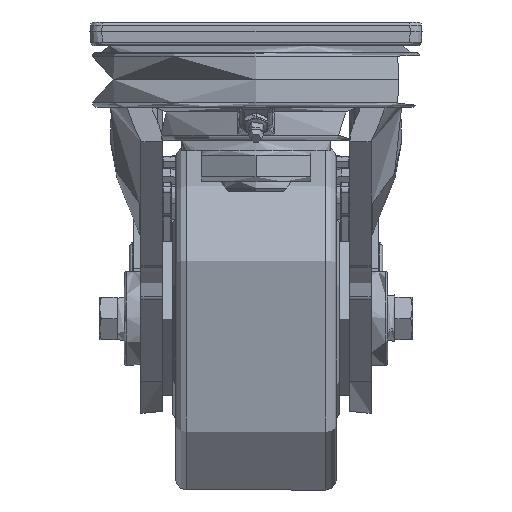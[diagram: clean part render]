
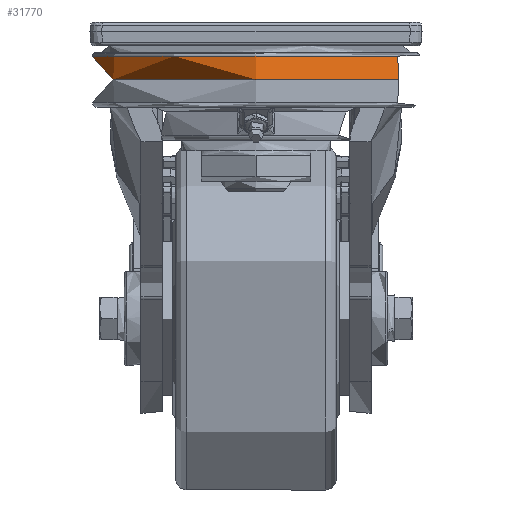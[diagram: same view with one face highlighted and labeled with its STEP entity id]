
A CAD part, left-side view. The second image highlights one B-rep face of the part: STEP entity #31770.
In plain terms, the highlighted conical face has half-angle 3 degrees and reference radius 69.242 mm.
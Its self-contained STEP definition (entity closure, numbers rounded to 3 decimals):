
#81=CONICAL_SURFACE('',#34088,69.242,0.052);
#4153=FACE_OUTER_BOUND('',#6046,.T.);
#6046=EDGE_LOOP('',(#28422,#28423,#28424,#28425,#28426,#28427,#28428));
#8529=LINE('',#59586,#11010);
#11010=VECTOR('',#40966,69.242);
#12146=CIRCLE('',#34084,68.984);
#12147=CIRCLE('',#34085,68.984);
#12148=CIRCLE('',#34086,68.984);
#12150=CIRCLE('',#34089,69.5);
#12151=CIRCLE('',#34090,69.5);
#15094=VERTEX_POINT('',#59574);
#15095=VERTEX_POINT('',#59575);
#15096=VERTEX_POINT('',#59577);
#15097=VERTEX_POINT('',#59582);
#15098=VERTEX_POINT('',#59583);
#19623=EDGE_CURVE('',#15094,#15095,#12146,.T.);
#19624=EDGE_CURVE('',#15096,#15094,#12147,.T.);
#19625=EDGE_CURVE('',#15095,#15096,#12148,.T.);
#19627=EDGE_CURVE('',#15097,#15098,#12150,.T.);
#19628=EDGE_CURVE('',#15098,#15097,#12151,.T.);
#19629=EDGE_CURVE('',#15098,#15096,#8529,.T.);
#28422=ORIENTED_EDGE('',*,*,#19627,.F.);
#28423=ORIENTED_EDGE('',*,*,#19628,.F.);
#28424=ORIENTED_EDGE('',*,*,#19629,.T.);
#28425=ORIENTED_EDGE('',*,*,#19624,.T.);
#28426=ORIENTED_EDGE('',*,*,#19623,.T.);
#28427=ORIENTED_EDGE('',*,*,#19625,.T.);
#28428=ORIENTED_EDGE('',*,*,#19629,.F.);
#31770=ADVANCED_FACE('',(#4153),#81,.T.);
#34084=AXIS2_PLACEMENT_3D('',#59576,#40952,#40953);
#34085=AXIS2_PLACEMENT_3D('',#59578,#40954,#40955);
#34086=AXIS2_PLACEMENT_3D('',#59579,#40956,#40957);
#34088=AXIS2_PLACEMENT_3D('',#59581,#40960,#40961);
#34089=AXIS2_PLACEMENT_3D('',#59584,#40962,#40963);
#34090=AXIS2_PLACEMENT_3D('',#59585,#40964,#40965);
#40952=DIRECTION('center_axis',(0.,0.,
-1.));
#40953=DIRECTION('ref_axis',(-1.,0.,0.));
#40954=DIRECTION('center_axis',(0.,0.,
-1.));
#40955=DIRECTION('ref_axis',(-1.,0.,0.));
#40956=DIRECTION('center_axis',(0.,0.,
-1.));
#40957=DIRECTION('ref_axis',(-1.,0.,0.));
#40960=DIRECTION('center_axis',(0.,0.,
-1.));
#40961=DIRECTION('ref_axis',(-1.,0.,0.));
#40962=DIRECTION('center_axis',(0.,0.,
-1.));
#40963=DIRECTION('ref_axis',(-1.,0.,0.));
#40964=DIRECTION('center_axis',(0.,0.,
-1.));
#40965=DIRECTION('ref_axis',(-1.,0.,0.));
#40966=DIRECTION('',(-0.052,0.,0.999));
#59574=CARTESIAN_POINT('',(-68.984,0.,-1.395));
#59575=CARTESIAN_POINT('',(0.,68.984,-1.395));
#59576=CARTESIAN_POINT('Origin',(0.,0.,
-1.395));
#59577=CARTESIAN_POINT('',(68.984,0.,-1.395));
#59578=CARTESIAN_POINT('Origin',(0.,0.,
-1.395));
#59579=CARTESIAN_POINT('Origin',(0.,0.,
-1.395));
#59581=CARTESIAN_POINT('Origin',(0.,0.,
-6.323));
#59582=CARTESIAN_POINT('',(-69.5,0.,-11.25));
#59583=CARTESIAN_POINT('',(69.5,0.,-11.25));
#59584=CARTESIAN_POINT('Origin',(0.,0.,
-11.25));
#59585=CARTESIAN_POINT('Origin',(0.,0.,
-11.25));
#59586=CARTESIAN_POINT('',(69.242,0.,-6.323));
